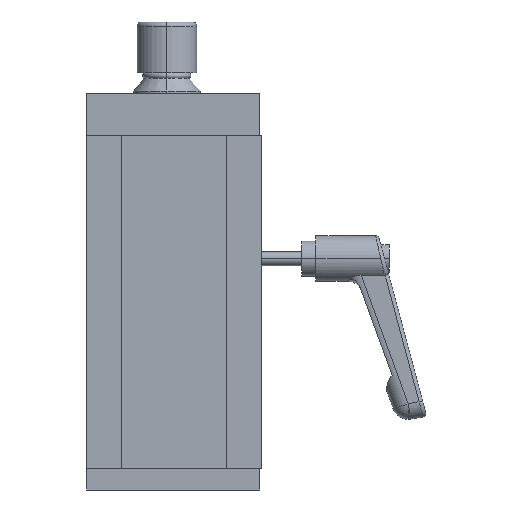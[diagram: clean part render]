
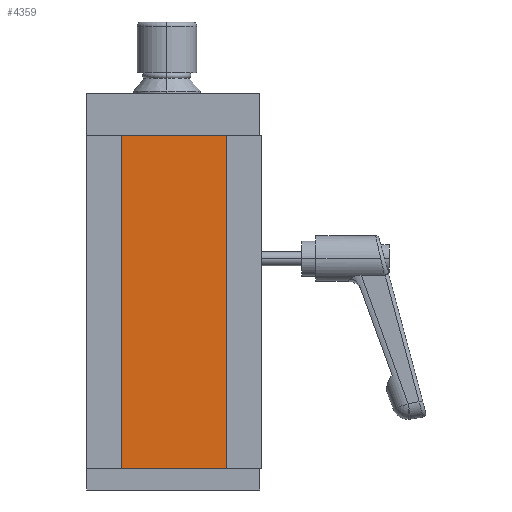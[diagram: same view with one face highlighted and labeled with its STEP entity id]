
A CAD part, front view. The second image highlights one B-rep face of the part: STEP entity #4359.
In plain terms, the highlighted planar face has unit normal (0, -1, 0).
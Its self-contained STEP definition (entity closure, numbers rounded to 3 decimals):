
#4294 = VERTEX_POINT ( 'NONE', #7437 ) ;
#4295 = ORIENTED_EDGE ( 'NONE', *, *, #4297, .T. ) ;
#4297 = EDGE_CURVE ( 'NONE', #4303, #4307, #7436, .T. ) ;
#4303 = VERTEX_POINT ( 'NONE', #7424 ) ;
#4307 = VERTEX_POINT ( 'NONE', #7479 ) ;
#4312 = EDGE_CURVE ( 'NONE', #4303, #4294, #7478, .T. ) ;
#4319 = ORIENTED_EDGE ( 'NONE', *, *, #4312, .F. ) ;
#4358 = ORIENTED_EDGE ( 'NONE', *, *, #4368, .F. ) ;
#4359 = ADVANCED_FACE ( 'Fl�che1', ( #7458 ), #7457, .F. ) ;
#4363 = EDGE_CURVE ( 'NONE', #4307, #4364, #7519, .T. ) ;
#4364 = VERTEX_POINT ( 'NONE', #7515 ) ;
#4368 = EDGE_CURVE ( 'NONE', #4294, #4364, #7509, .T. ) ;
#4372 = EDGE_LOOP ( 'NONE', ( #4373, #4358, #4319, #4295 ) ) ;
#4373 = ORIENTED_EDGE ( 'NONE', *, *, #4363, .T. ) ;
#7424 = CARTESIAN_POINT ( 'NONE',  ( 15.866, -11.3, -47.5 ) ) ;
#7433 = DIRECTION ( 'NONE',  ( 0., 0., 1. ) ) ;
#7434 = VECTOR ( 'NONE', #7433, 1000. ) ;
#7435 = CARTESIAN_POINT ( 'NONE',  ( 15.866, -11.3, -47.5 ) ) ;
#7436 = LINE ( 'NONE', #7435, #7434 ) ;
#7437 = CARTESIAN_POINT ( 'NONE',  ( -15.866, -11.3, -47.5 ) ) ;
#7453 = DIRECTION ( 'NONE',  ( 0., 0., 1. ) ) ;
#7454 = DIRECTION ( 'NONE',  ( 0., 1., 0. ) ) ;
#7455 = CARTESIAN_POINT ( 'NONE',  ( 15.866, -11.3, -47.5 ) ) ;
#7456 = AXIS2_PLACEMENT_3D ( 'NONE', #7455, #7454, #7453 ) ;
#7457 = PLANE ( 'NONE',  #7456 ) ;
#7458 = FACE_OUTER_BOUND ( 'NONE', #4372, .T. ) ;
#7475 = DIRECTION ( 'NONE',  ( -1., 0., 0. ) ) ;
#7476 = VECTOR ( 'NONE', #7475, 1000. ) ;
#7477 = CARTESIAN_POINT ( 'NONE',  ( 15.866, -11.3, -47.5 ) ) ;
#7478 = LINE ( 'NONE', #7477, #7476 ) ;
#7479 = CARTESIAN_POINT ( 'NONE',  ( 15.866, -11.3, 47.5 ) ) ;
#7506 = DIRECTION ( 'NONE',  ( 0., 0., 1. ) ) ;
#7507 = VECTOR ( 'NONE', #7506, 1000. ) ;
#7508 = CARTESIAN_POINT ( 'NONE',  ( -15.866, -11.3, -47.5 ) ) ;
#7509 = LINE ( 'NONE', #7508, #7507 ) ;
#7515 = CARTESIAN_POINT ( 'NONE',  ( -15.866, -11.3, 47.5 ) ) ;
#7516 = DIRECTION ( 'NONE',  ( -1., 0., 0. ) ) ;
#7517 = VECTOR ( 'NONE', #7516, 1000. ) ;
#7518 = CARTESIAN_POINT ( 'NONE',  ( 15.866, -11.3, 47.5 ) ) ;
#7519 = LINE ( 'NONE', #7518, #7517 ) ;
